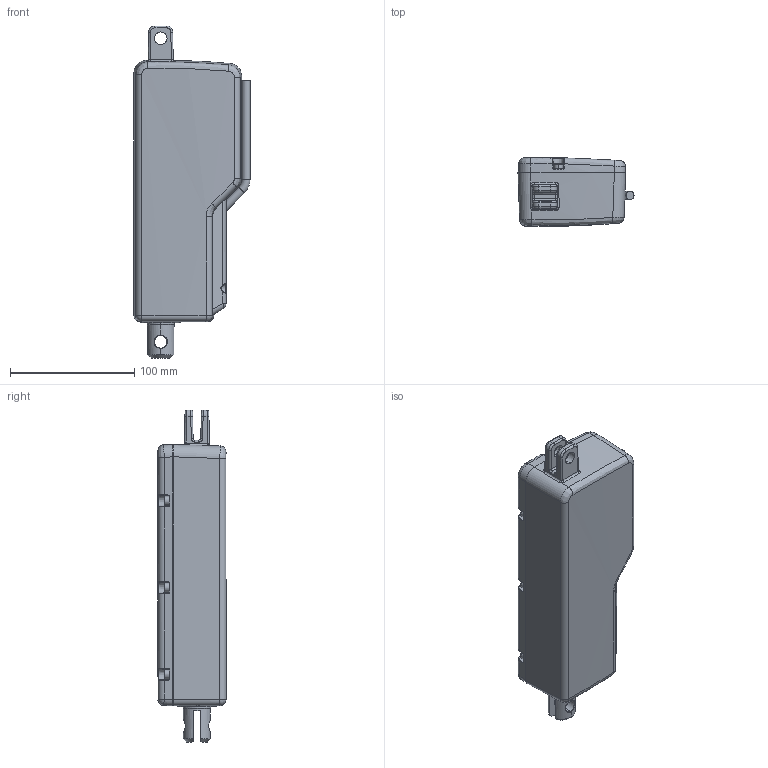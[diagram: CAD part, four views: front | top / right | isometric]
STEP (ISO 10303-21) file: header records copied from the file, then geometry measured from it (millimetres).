
FILE_DESCRIPTION((''),'2;1');
FILE_NAME('MK15-XX-H2A-10-SSS-YYY-5100Z_ASM','2024-12-23T',('lily'),(''),'PRO/ENGINEER BY PARAMETRIC TECHNOLOGY CORPORATION, 2016360','PRO/ENGINEER BY PARAMETRIC TECHNOLOGY CORPORATION, 2016360','');
FILE_SCHEMA(('CONFIG_CONTROL_DESIGN'));
Length unit declared in the file: millimetre
Products named in the file (3): MK15-XX-H2A-10-SSS-YYY-5100Z-2; MK15-XX-H2A-10-SSS-YYY-5100Z-1; MK15-XX-H2A-10-SSS-YYY-5100Z_ASM
Assembly tree (2 placements, depth 2):
  MK15-XX-H2A-10-SSS-YYY-5100Z_ASM
    MK15-XX-H2A-10-SSS-YYY-5100Z-2
    MK15-XX-H2A-10-SSS-YYY-5100Z-1
Bounding box: 93.56 x 54.97 x 267.7 mm (x, y, z)
Volume: 317946.1 mm3; surface area: 192610 mm2
Topology: 2 solids, 17 shells, 3629 faces, 8957 edges, 5374 vertices
Faces by surface type: cylinder 1315, plane 878, bspline 650, torus 365, sphere 277, cone 133, extrusion 11
Entity records: 163846 total; most frequent: CARTESIAN_POINT 84747, ORIENTED_EDGE 17867, DIRECTION 14618, EDGE_CURVE 8949, AXIS2_PLACEMENT_3D 5545, VERTEX_POINT 5373, EDGE_LOOP 3712, FACE_OUTER_BOUND 3629
